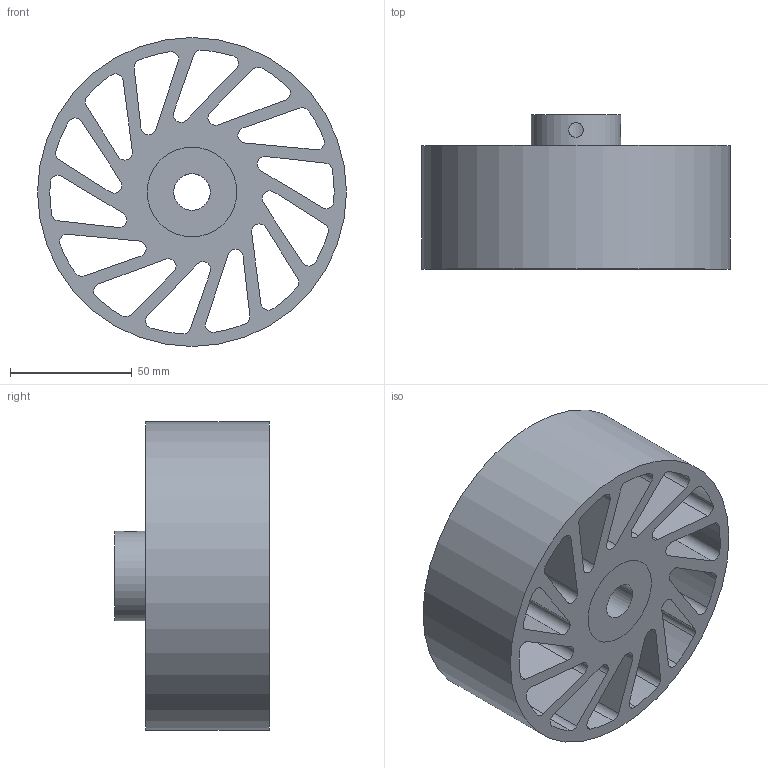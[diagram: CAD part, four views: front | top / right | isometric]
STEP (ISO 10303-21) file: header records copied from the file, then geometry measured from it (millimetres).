
FILE_DESCRIPTION(/* description */ (''),/* implementation_level */ '2;1');
FILE_NAME(/* name */ 'NCWM-510-XXX-YYY.stp',/* time_stamp */ '2023-02-02T16:35:29-06:00',/* author */ ('AG'),/* organization */ ('Meridian Laboratory'),/* preprocessor_version */ 'ST-DEVELOPER v18.1',/* originating_system */ 'Autodesk Inventor 2022',/* authorisation */ '');
FILE_SCHEMA (('AUTOMOTIVE_DESIGN { 1 0 10303 214 3 1 1 }'));
Length unit declared in the file: millimetre
Products named in the file (1): NCWM-440
Bounding box: 127 x 63.5 x 127 mm (x, y, z)
Volume: 362483.8 mm3; surface area: 112148.3 mm2
Topology: 2 solids, 2 shells, 94 faces, 276 edges, 186 vertices
Faces by surface type: cylinder 62, plane 32
Full cylindrical faces by diameter (mm): 6 x2, 15.025 x1, 36.83 x2, 127 x1
Entity records: 3528 total; most frequent: CARTESIAN_POINT 697, DIRECTION 576, ORIENTED_EDGE 552, EDGE_CURVE 276, AXIS2_PLACEMENT_3D 215, VERTEX_POINT 186, LINE 146, VECTOR 146
